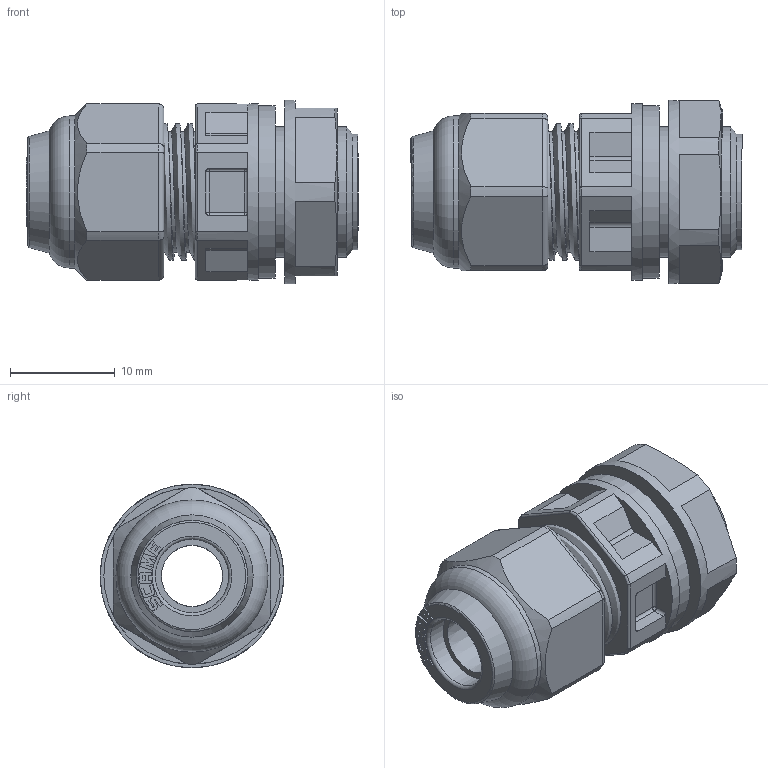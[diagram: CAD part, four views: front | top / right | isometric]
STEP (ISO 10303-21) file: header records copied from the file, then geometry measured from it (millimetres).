
FILE_DESCRIPTION(/* description */ (''),/* implementation_level */ '2;1');
FILE_NAME(/* name */ '4013116.stp',/* time_stamp */ '2024-06-11T07:57:50+02:00',/* author */ (''),/* organization */ (''),/* preprocessor_version */ 'ST-DEVELOPER v19.4',/* originating_system */ 'SIEMENS PLM Software NX2306.8301',/* authorisation */ '');
FILE_SCHEMA (('AUTOMOTIVE_DESIGN { 1 0 10303 214 3 1 1 1 }'));
Length unit declared in the file: millimetre
Products named in the file (1): BTTM52100ADCwjha
Bounding box: 31.65 x 17.5 x 17.5 mm (x, y, z)
Volume: 3918.2 mm3; surface area: 5599.8 mm2
Topology: 5 solids, 5 shells, 487 faces, 1292 edges, 834 vertices
Faces by surface type: plane 279, cylinder 92, extrusion 52, cone 30, torus 16, bspline 10, sphere 8
Full cylindrical faces by diameter (mm): 6 x1, 7 x2, 8.7 x2, 11 x1, 11.28 x1, 11.3 x1, 11.5 x7, 11.6 x1, 12.4 x2, 13.25 x1, 13.8 x1, 14.5 x1, 16.4 x1, 16.8 x1, 17.5 x1
Entity records: 29308 total; most frequent: CARTESIAN_POINT 17999, ORIENTED_EDGE 2430, DIRECTION 2065, EDGE_CURVE 1215, VERTEX_POINT 809, VECTOR 709, AXIS2_PLACEMENT_3D 678, LINE 657
